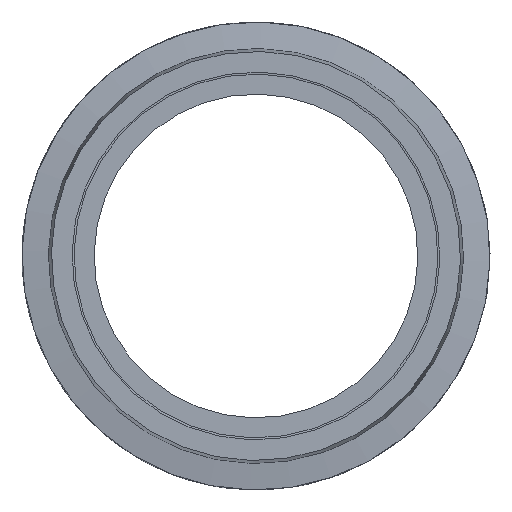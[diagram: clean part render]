
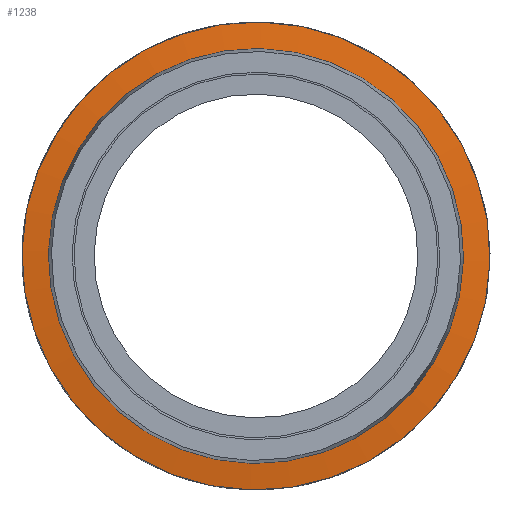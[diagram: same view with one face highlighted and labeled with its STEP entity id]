
A CAD part, left-side view. The second image highlights one B-rep face of the part: STEP entity #1238.
In plain terms, the highlighted conical face has half-angle 83 degrees and reference radius 18.615 mm.
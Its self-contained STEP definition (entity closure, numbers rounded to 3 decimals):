
#37=CONICAL_SURFACE('',#1392,18.615,1.449);
#82=FACE_BOUND('',#409,.T.);
#159=CIRCLE('',#1378,18.618);
#163=CIRCLE('',#1386,21.);
#164=CIRCLE('',#1387,18.618);
#290=FACE_OUTER_BOUND('',#408,.T.);
#408=EDGE_LOOP('',(#1005,#1006));
#409=EDGE_LOOP('',(#1007));
#608=VERTEX_POINT('',#7293);
#609=VERTEX_POINT('',#7294);
#614=VERTEX_POINT('',#7449);
#751=EDGE_CURVE('',#608,#609,#159,.T.);
#759=EDGE_CURVE('',#614,#614,#163,.T.);
#760=EDGE_CURVE('',#609,#608,#164,.T.);
#1005=ORIENTED_EDGE('',*,*,#760,.T.);
#1006=ORIENTED_EDGE('',*,*,#751,.T.);
#1007=ORIENTED_EDGE('',*,*,#759,.T.);
#1238=ADVANCED_FACE('',(#290,#82),#37,.T.);
#1378=AXIS2_PLACEMENT_3D('',#7295,#1587,#1588);
#1386=AXIS2_PLACEMENT_3D('',#7450,#1603,#1604);
#1387=AXIS2_PLACEMENT_3D('',#7541,#1605,#1606);
#1392=AXIS2_PLACEMENT_3D('',#7637,#1615,#1616);
#1587=DIRECTION('center_axis',(1.,0.,0.));
#1588=DIRECTION('ref_axis',(0.,1.,0.));
#1603=DIRECTION('center_axis',(-1.,0.,0.));
#1604=DIRECTION('ref_axis',(0.,0.878,-0.479));
#1605=DIRECTION('center_axis',(1.,0.,0.));
#1606=DIRECTION('ref_axis',(0.,0.878,-0.479));
#1615=DIRECTION('center_axis',(1.,0.,0.));
#1616=DIRECTION('ref_axis',(0.,0.878,-0.479));
#7293=CARTESIAN_POINT('',(-41.419,16.339,-8.926));
#7294=CARTESIAN_POINT('',(-41.419,-16.339,8.926));
#7295=CARTESIAN_POINT('Origin',(-41.419,0.,
0.));
#7449=CARTESIAN_POINT('',(-41.127,-18.429,10.068));
#7450=CARTESIAN_POINT('Origin',(-41.127,0.,
0.));
#7541=CARTESIAN_POINT('Origin',(-41.419,0.,
0.));
#7637=CARTESIAN_POINT('Origin',(-41.42,0.,0.));
